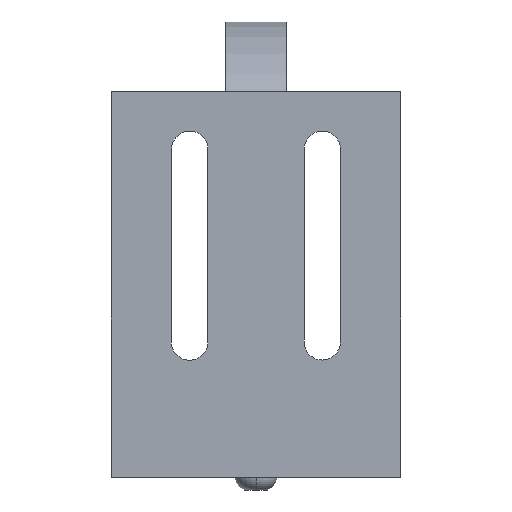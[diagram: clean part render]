
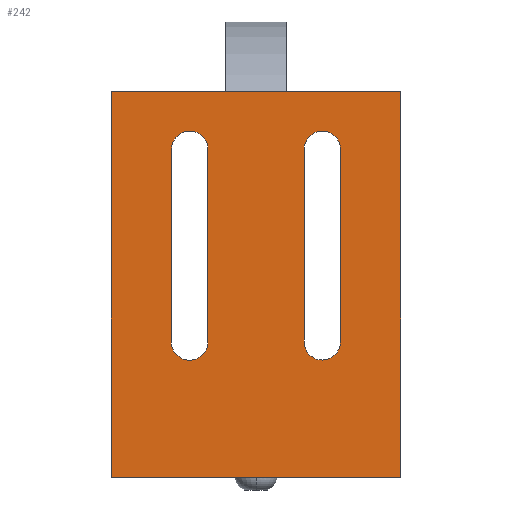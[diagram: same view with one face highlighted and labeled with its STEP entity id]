
A CAD part, front view. The second image highlights one B-rep face of the part: STEP entity #242.
In plain terms, the highlighted planar face has unit normal (0, -1, 0).
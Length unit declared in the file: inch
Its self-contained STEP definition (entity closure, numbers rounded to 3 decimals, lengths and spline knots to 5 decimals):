
#13 = ORIENTED_EDGE ( 'NONE', *, *, #126, .T. ) ;
#80 = VERTEX_POINT ( 'NONE', #802 ) ;
#90 = EDGE_CURVE ( 'NONE', #583, #80, #844, .T. ) ;
#126 = EDGE_CURVE ( 'NONE', #135, #647, #915, .T. ) ;
#135 = VERTEX_POINT ( 'NONE', #957 ) ;
#189 = EDGE_LOOP ( 'NONE', ( #250, #261, #283, #275, #284 ) ) ;
#196 = ORIENTED_EDGE ( 'NONE', *, *, #645, .T. ) ;
#199 = ORIENTED_EDGE ( 'NONE', *, *, #352, .F. ) ;
#202 = ORIENTED_EDGE ( 'NONE', *, *, #346, .F. ) ;
#203 = VERTEX_POINT ( 'NONE', #993 ) ;
#204 = VERTEX_POINT ( 'NONE', #992 ) ;
#233 = VERTEX_POINT ( 'NONE', #1067 ) ;
#242 = ADVANCED_FACE ( 'NONE', ( #1063, #1062, #1057 ), #1056, .F. ) ;
#249 = EDGE_CURVE ( 'NONE', #268, #252, #1101, .T. ) ;
#250 = ORIENTED_EDGE ( 'NONE', *, *, #249, .F. ) ;
#252 = VERTEX_POINT ( 'NONE', #1097 ) ;
#259 = EDGE_CURVE ( 'NONE', #279, #268, #1145, .T. ) ;
#261 = ORIENTED_EDGE ( 'NONE', *, *, #259, .F. ) ;
#264 = EDGE_LOOP ( 'NONE', ( #282, #202, #349, #345, #199 ) ) ;
#268 = VERTEX_POINT ( 'NONE', #1137 ) ;
#269 = EDGE_CURVE ( 'NONE', #203, #204, #1136, .T. ) ;
#271 = VERTEX_POINT ( 'NONE', #1132 ) ;
#274 = EDGE_CURVE ( 'NONE', #252, #233, #1130, .T. ) ;
#275 = ORIENTED_EDGE ( 'NONE', *, *, #280, .F. ) ;
#277 = VERTEX_POINT ( 'NONE', #1122 ) ;
#278 = EDGE_CURVE ( 'NONE', #271, #279, #1121, .T. ) ;
#279 = VERTEX_POINT ( 'NONE', #1117 ) ;
#280 = EDGE_CURVE ( 'NONE', #233, #271, #1179, .T. ) ;
#282 = ORIENTED_EDGE ( 'NONE', *, *, #269, .F. ) ;
#283 = ORIENTED_EDGE ( 'NONE', *, *, #278, .F. ) ;
#284 = ORIENTED_EDGE ( 'NONE', *, *, #274, .F. ) ;
#317 = EDGE_CURVE ( 'NONE', #277, #318, #1230, .T. ) ;
#318 = VERTEX_POINT ( 'NONE', #1225 ) ;
#345 = ORIENTED_EDGE ( 'NONE', *, *, #317, .F. ) ;
#346 = EDGE_CURVE ( 'NONE', #347, #203, #1282, .T. ) ;
#347 = VERTEX_POINT ( 'NONE', #1277 ) ;
#349 = ORIENTED_EDGE ( 'NONE', *, *, #350, .F. ) ;
#350 = EDGE_CURVE ( 'NONE', #318, #347, #1276, .T. ) ;
#352 = EDGE_CURVE ( 'NONE', #204, #277, #1328, .T. ) ;
#353 = EDGE_CURVE ( 'NONE', #135, #80, #1323, .T. ) ;
#354 = ORIENTED_EDGE ( 'NONE', *, *, #90, .T. ) ;
#356 = EDGE_LOOP ( 'NONE', ( #354, #357, #13, #196 ) ) ;
#357 = ORIENTED_EDGE ( 'NONE', *, *, #353, .F. ) ;
#583 = VERTEX_POINT ( 'NONE', #1735 ) ;
#645 = EDGE_CURVE ( 'NONE', #647, #583, #1832, .T. ) ;
#647 = VERTEX_POINT ( 'NONE', #1823 ) ;
#802 = CARTESIAN_POINT ( 'NONE',  ( 30.61838, 2.10836, 4. ) ) ;
#841 = DIRECTION ( 'NONE',  ( 0., 0., 1. ) ) ;
#842 = VECTOR ( 'NONE', #841, 39.37008 ) ;
#843 = CARTESIAN_POINT ( 'NONE',  ( 30.61838, 2.10836, 0.375 ) ) ;
#844 = LINE ( 'NONE', #843, #842 ) ;
#912 = DIRECTION ( 'NONE',  ( 0., 0., -1. ) ) ;
#913 = VECTOR ( 'NONE', #912, 39.37008 ) ;
#914 = CARTESIAN_POINT ( 'NONE',  ( 27.61838, 2.10836, 0.375 ) ) ;
#915 = LINE ( 'NONE', #914, #913 ) ;
#957 = CARTESIAN_POINT ( 'NONE',  ( 27.61838, 2.10836, 4. ) ) ;
#992 = CARTESIAN_POINT ( 'NONE',  ( 28.23945, 2.10836, 1.40421 ) ) ;
#993 = CARTESIAN_POINT ( 'NONE',  ( 28.24388, 2.10836, 3.4042 ) ) ;
#1051 = DIRECTION ( 'NONE',  ( 0., 0., 1. ) ) ;
#1052 = DIRECTION ( 'NONE',  ( 0., 1., 0. ) ) ;
#1053 = CARTESIAN_POINT ( 'NONE',  ( 30.61838, 2.10836, 0. ) ) ;
#1054 = AXIS2_PLACEMENT_3D ( 'NONE', #1053, #1052, #1051 ) ;
#1056 = PLANE ( 'NONE',  #1054 ) ;
#1057 = FACE_OUTER_BOUND ( 'NONE', #356, .T. ) ;
#1062 = FACE_BOUND ( 'NONE', #264, .T. ) ;
#1063 = FACE_BOUND ( 'NONE', #189, .T. ) ;
#1067 = CARTESIAN_POINT ( 'NONE',  ( 29.80585, 2.10836, 1.21575 ) ) ;
#1085 = CARTESIAN_POINT ( 'NONE',  ( 29.80638, 2.10836, 3.40378 ) ) ;
#1097 = CARTESIAN_POINT ( 'NONE',  ( 29.61888, 2.10836, 1.42383 ) ) ;
#1098 = DIRECTION ( 'NONE',  ( 0., 0., -1. ) ) ;
#1099 = VECTOR ( 'NONE', #1098, 39.37008 ) ;
#1100 = CARTESIAN_POINT ( 'NONE',  ( 29.61888, 2.10836, 3.40378 ) ) ;
#1101 = LINE ( 'NONE', #1100, #1099 ) ;
#1116 = CARTESIAN_POINT ( 'NONE',  ( 29.80585, 2.10836, 1.40378 ) ) ;
#1117 = CARTESIAN_POINT ( 'NONE',  ( 29.99388, 2.10836, 3.40378 ) ) ;
#1118 = DIRECTION ( 'NONE',  ( 0., 0., 1. ) ) ;
#1119 = VECTOR ( 'NONE', #1118, 39.37008 ) ;
#1120 = CARTESIAN_POINT ( 'NONE',  ( 29.99388, 2.10836, 3.40378 ) ) ;
#1121 = LINE ( 'NONE', #1120, #1119 ) ;
#1122 = CARTESIAN_POINT ( 'NONE',  ( 28.42917, 2.10836, 1.21407 ) ) ;
#1126 = DIRECTION ( 'NONE',  ( 0., 0., -1. ) ) ;
#1127 = DIRECTION ( 'NONE',  ( 0., -1., 0. ) ) ;
#1128 = CARTESIAN_POINT ( 'NONE',  ( 29.80585, 2.10836, 1.40378 ) ) ;
#1129 = AXIS2_PLACEMENT_3D ( 'NONE', #1128, #1127, #1126 ) ;
#1130 = CIRCLE ( 'NONE', #1129, 0.18804 ) ;
#1132 = CARTESIAN_POINT ( 'NONE',  ( 29.99388, 2.10836, 1.40378 ) ) ;
#1133 = DIRECTION ( 'NONE',  ( -0.002, 0., -1. ) ) ;
#1134 = VECTOR ( 'NONE', #1133, 39.37008 ) ;
#1135 = CARTESIAN_POINT ( 'NONE',  ( 28.24388, 2.10836, 3.4042 ) ) ;
#1136 = LINE ( 'NONE', #1135, #1134 ) ;
#1137 = CARTESIAN_POINT ( 'NONE',  ( 29.61888, 2.10836, 3.40378 ) ) ;
#1142 = DIRECTION ( 'NONE',  ( 0., 0., -1. ) ) ;
#1143 = DIRECTION ( 'NONE',  ( 0., -1., 0. ) ) ;
#1144 = AXIS2_PLACEMENT_3D ( 'NONE', #1085, #1143, #1142 ) ;
#1145 = CIRCLE ( 'NONE', #1144, 0.1875 ) ;
#1176 = DIRECTION ( 'NONE',  ( 0., 0., -1. ) ) ;
#1177 = DIRECTION ( 'NONE',  ( 0., -1., 0. ) ) ;
#1178 = AXIS2_PLACEMENT_3D ( 'NONE', #1116, #1177, #1176 ) ;
#1179 = CIRCLE ( 'NONE', #1178, 0.18804 ) ;
#1225 = CARTESIAN_POINT ( 'NONE',  ( 28.61888, 2.10836, 1.40379 ) ) ;
#1226 = DIRECTION ( 'NONE',  ( 0., 0., -1. ) ) ;
#1227 = DIRECTION ( 'NONE',  ( 0., -1., 0. ) ) ;
#1228 = CARTESIAN_POINT ( 'NONE',  ( 28.42917, 2.10836, 1.40379 ) ) ;
#1229 = AXIS2_PLACEMENT_3D ( 'NONE', #1228, #1227, #1226 ) ;
#1230 = CIRCLE ( 'NONE', #1229, 0.18972 ) ;
#1273 = DIRECTION ( 'NONE',  ( 0., 0., 1. ) ) ;
#1274 = VECTOR ( 'NONE', #1273, 39.37008 ) ;
#1275 = CARTESIAN_POINT ( 'NONE',  ( 28.61888, 2.10836, 1.40379 ) ) ;
#1276 = LINE ( 'NONE', #1275, #1274 ) ;
#1277 = CARTESIAN_POINT ( 'NONE',  ( 28.61888, 2.10836, 3.40378 ) ) ;
#1278 = DIRECTION ( 'NONE',  ( 0., 0., -1. ) ) ;
#1279 = DIRECTION ( 'NONE',  ( 0., -1., 0. ) ) ;
#1280 = CARTESIAN_POINT ( 'NONE',  ( 28.43138, 2.10836, 3.40378 ) ) ;
#1281 = AXIS2_PLACEMENT_3D ( 'NONE', #1280, #1279, #1278 ) ;
#1282 = CIRCLE ( 'NONE', #1281, 0.1875 ) ;
#1320 = DIRECTION ( 'NONE',  ( 1., 0., 0. ) ) ;
#1321 = VECTOR ( 'NONE', #1320, 39.37008 ) ;
#1322 = CARTESIAN_POINT ( 'NONE',  ( 27.61838, 2.10836, 4. ) ) ;
#1323 = LINE ( 'NONE', #1322, #1321 ) ;
#1324 = DIRECTION ( 'NONE',  ( 0., 0., -1. ) ) ;
#1325 = DIRECTION ( 'NONE',  ( 0., -1., 0. ) ) ;
#1326 = CARTESIAN_POINT ( 'NONE',  ( 28.42917, 2.10836, 1.40379 ) ) ;
#1327 = AXIS2_PLACEMENT_3D ( 'NONE', #1326, #1325, #1324 ) ;
#1328 = CIRCLE ( 'NONE', #1327, 0.18972 ) ;
#1735 = CARTESIAN_POINT ( 'NONE',  ( 30.61838, 2.10836, 0. ) ) ;
#1823 = CARTESIAN_POINT ( 'NONE',  ( 27.61838, 2.10836, 0. ) ) ;
#1824 = DIRECTION ( 'NONE',  ( 1., 0., 0. ) ) ;
#1825 = VECTOR ( 'NONE', #1824, 39.37008 ) ;
#1826 = CARTESIAN_POINT ( 'NONE',  ( 30.61838, 2.10836, 0. ) ) ;
#1832 = LINE ( 'NONE', #1826, #1825 ) ;
